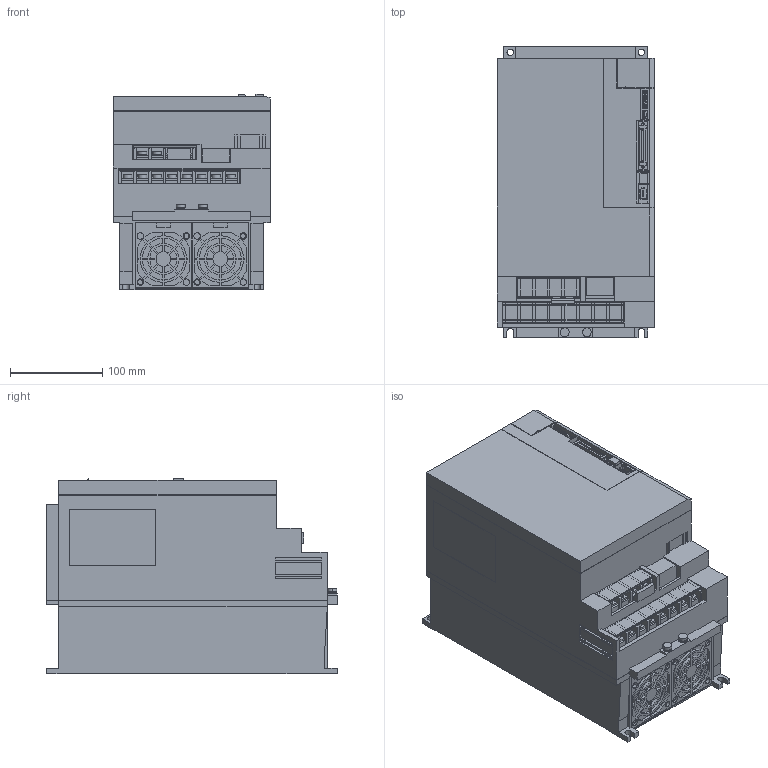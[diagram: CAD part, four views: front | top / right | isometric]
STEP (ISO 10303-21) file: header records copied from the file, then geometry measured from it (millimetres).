
FILE_DESCRIPTION (( 'STEP AP203' ), '1' );
FILE_NAME ('sgd7s_550a00a.STEP', '2015-09-18T08:31:10', ( '匠エンジニアリング山之内' ), ( 'TAKUMI-Engniaring' ), 'SwSTEP 2.0', 'SolidWorks 2006303', '' );
FILE_SCHEMA (( 'CONFIG_CONTROL_DESIGN' ));
Products named in the file (8): sgd7s_550a00a_cover2; sgd7s_550a00a; sgd7s_550a00a_base; sgd7s_550a00a_cover; sgd7s_550a00a_connector; sgd7s_550a00a_cover3; sgd7s_550a00a_cover4; sgd7s_550a00a_terminal
Assembly tree (8 placements, depth 2):
  sgd7s_550a00a
    sgd7s_550a00a_cover3
    sgd7s_550a00a_terminal
    sgd7s_550a00a_cover
    sgd7s_550a00a_cover2  x2
    sgd7s_550a00a_connector
    sgd7s_550a00a_base
    sgd7s_550a00a_cover4
Bounding box: 170.5 x 315 x 212.29 mm (x, y, z)
Volume: 8059522.2 mm3; surface area: 896464.3 mm2
Topology: 8 solids, 8 shells, 2082 faces, 5492 edges, 3644 vertices
Faces by surface type: plane 1678, cylinder 399, cone 4, sphere 1
Entity records: 64016 total; most frequent: CARTESIAN_POINT 11118, ORIENTED_EDGE 10876, DIRECTION 10392, EDGE_CURVE 5438, VECTOR 4628, LINE 4628, VERTEX_POINT 3608, AXIS2_PLACEMENT_3D 2882
